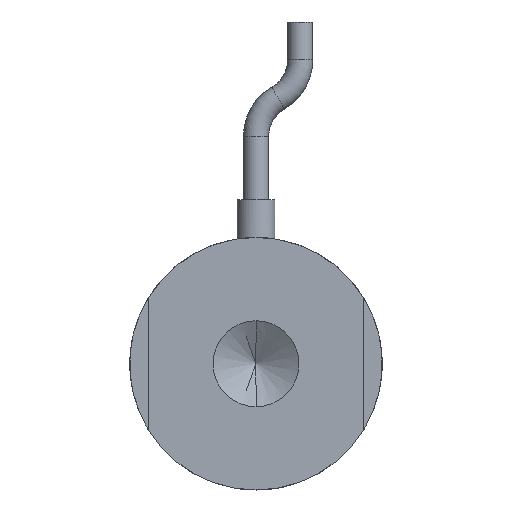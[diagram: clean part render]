
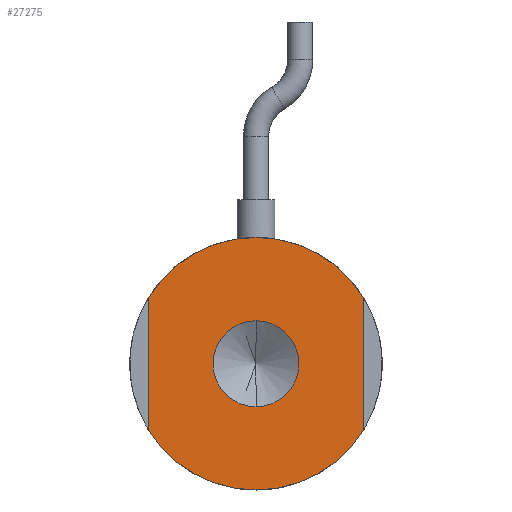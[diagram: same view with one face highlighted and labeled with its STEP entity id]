
A CAD part, front view. The second image highlights one B-rep face of the part: STEP entity #27275.
In plain terms, the highlighted planar face has unit normal (0, -1, 0).
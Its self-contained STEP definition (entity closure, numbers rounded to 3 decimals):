
#175 = ORIENTED_EDGE ( 'NONE', *, *, #4911, .F. ) ;
#606 = VERTEX_POINT ( 'NONE', #18744 ) ;
#827 = VERTEX_POINT ( 'NONE', #5374 ) ;
#1340 = CARTESIAN_POINT ( 'NONE',  ( 0., 0., 0. ) ) ;
#1816 = DIRECTION ( 'NONE',  ( 0., 0., 1. ) ) ;
#1964 = DIRECTION ( 'NONE',  ( 0., 0., -1. ) ) ;
#2889 = DIRECTION ( 'NONE',  ( 0., 0., -1. ) ) ;
#3129 = VERTEX_POINT ( 'NONE', #12806 ) ;
#3166 = VERTEX_POINT ( 'NONE', #6593 ) ;
#3718 = AXIS2_PLACEMENT_3D ( 'NONE', #44540, #41492, #20652 ) ;
#4396 = AXIS2_PLACEMENT_3D ( 'NONE', #44533, #23725, #2889 ) ;
#4875 = DIRECTION ( 'NONE',  ( 0., 0., -1. ) ) ;
#4911 = EDGE_CURVE ( 'NONE', #3129, #29303, #23677, .T. ) ;
#5374 = CARTESIAN_POINT ( 'NONE',  ( 8.5, 0., 5.268 ) ) ;
#6593 = CARTESIAN_POINT ( 'NONE',  ( 8.5, 0., -5.268 ) ) ;
#6669 = AXIS2_PLACEMENT_3D ( 'NONE', #27531, #6719, #31050 ) ;
#6719 = DIRECTION ( 'NONE',  ( 0., 1., 0. ) ) ;
#7034 = CARTESIAN_POINT ( 'NONE',  ( 0., 0., 10. ) ) ;
#7803 = DIRECTION ( 'NONE',  ( 0., 1., 0. ) ) ;
#8631 = EDGE_LOOP ( 'NONE', ( #28959, #29919 ) ) ;
#8984 = VERTEX_POINT ( 'NONE', #37678 ) ;
#9747 = CARTESIAN_POINT ( 'NONE',  ( 0., 0., 0. ) ) ;
#9778 = VECTOR ( 'NONE', #1964, 1000. ) ;
#10733 = EDGE_CURVE ( 'NONE', #31357, #827, #14322, .T. ) ;
#10824 = EDGE_CURVE ( 'NONE', #8984, #3129, #31795, .T. ) ;
#12146 = ORIENTED_EDGE ( 'NONE', *, *, #10733, .F. ) ;
#12806 = CARTESIAN_POINT ( 'NONE',  ( -8.5, 0., -5.268 ) ) ;
#13191 = DIRECTION ( 'NONE',  ( 0., 0., 1. ) ) ;
#14322 = CIRCLE ( 'NONE', #18330, 10. ) ;
#16300 = DIRECTION ( 'NONE',  ( 0., 0., 1. ) ) ;
#17043 = ORIENTED_EDGE ( 'NONE', *, *, #24200, .F. ) ;
#17172 = PLANE ( 'NONE',  #3718 ) ;
#17607 = ORIENTED_EDGE ( 'NONE', *, *, #10824, .F. ) ;
#18330 = AXIS2_PLACEMENT_3D ( 'NONE', #28636, #7803, #32179 ) ;
#18744 = CARTESIAN_POINT ( 'NONE',  ( 0., 0., 3.4 ) ) ;
#18962 = LINE ( 'NONE', #19309, #9778 ) ;
#19309 = CARTESIAN_POINT ( 'NONE',  ( 8.5, 0., 0. ) ) ;
#20652 = DIRECTION ( 'NONE',  ( 0., 0., 1. ) ) ;
#20986 = CIRCLE ( 'NONE', #39185, 3.4 ) ;
#22680 = DIRECTION ( 'NONE',  ( 0., 1., 0. ) ) ;
#23606 = ORIENTED_EDGE ( 'NONE', *, *, #36117, .F. ) ;
#23677 = LINE ( 'NONE', #37166, #42168 ) ;
#23725 = DIRECTION ( 'NONE',  ( 0., -1., 0. ) ) ;
#24200 = EDGE_CURVE ( 'NONE', #29303, #31357, #30783, .T. ) ;
#25688 = DIRECTION ( 'NONE',  ( 0., -1., 0. ) ) ;
#27275 = ADVANCED_FACE ( 'NONE', ( #31316, #34609 ), #17172, .F. ) ;
#27531 = CARTESIAN_POINT ( 'NONE',  ( 0., 0., 0. ) ) ;
#28493 = EDGE_CURVE ( 'NONE', #3166, #8984, #41577, .T. ) ;
#28636 = CARTESIAN_POINT ( 'NONE',  ( 0., 0., 0. ) ) ;
#28959 = ORIENTED_EDGE ( 'NONE', *, *, #42218, .F. ) ;
#29303 = VERTEX_POINT ( 'NONE', #40060 ) ;
#29869 = CIRCLE ( 'NONE', #4396, 3.4 ) ;
#29919 = ORIENTED_EDGE ( 'NONE', *, *, #36815, .F. ) ;
#30016 = AXIS2_PLACEMENT_3D ( 'NONE', #43488, #22680, #1816 ) ;
#30783 = CIRCLE ( 'NONE', #43883, 10. ) ;
#31050 = DIRECTION ( 'NONE',  ( 0., 0., 1. ) ) ;
#31316 = FACE_BOUND ( 'NONE', #8631, .T. ) ;
#31357 = VERTEX_POINT ( 'NONE', #7034 ) ;
#31795 = CIRCLE ( 'NONE', #30016, 10. ) ;
#32179 = DIRECTION ( 'NONE',  ( 0., 0., 1. ) ) ;
#33135 = CARTESIAN_POINT ( 'NONE',  ( 0., 0., -3.4 ) ) ;
#34107 = DIRECTION ( 'NONE',  ( 0., 1., 0. ) ) ;
#34609 = FACE_OUTER_BOUND ( 'NONE', #40119, .T. ) ;
#36117 = EDGE_CURVE ( 'NONE', #827, #3166, #18962, .T. ) ;
#36815 = EDGE_CURVE ( 'NONE', #606, #40468, #29869, .T. ) ;
#37166 = CARTESIAN_POINT ( 'NONE',  ( -8.5, 0., 0. ) ) ;
#37678 = CARTESIAN_POINT ( 'NONE',  ( 0., 0., -10. ) ) ;
#39185 = AXIS2_PLACEMENT_3D ( 'NONE', #1340, #25688, #4875 ) ;
#40060 = CARTESIAN_POINT ( 'NONE',  ( -8.5, 0., 5.268 ) ) ;
#40119 = EDGE_LOOP ( 'NONE', ( #175, #17607, #42092, #23606, #12146, #17043 ) ) ;
#40468 = VERTEX_POINT ( 'NONE', #33135 ) ;
#41492 = DIRECTION ( 'NONE',  ( 0., 1., 0. ) ) ;
#41577 = CIRCLE ( 'NONE', #6669, 10. ) ;
#42092 = ORIENTED_EDGE ( 'NONE', *, *, #28493, .F. ) ;
#42168 = VECTOR ( 'NONE', #16300, 1000. ) ;
#42218 = EDGE_CURVE ( 'NONE', #40468, #606, #20986, .T. ) ;
#43488 = CARTESIAN_POINT ( 'NONE',  ( 0., 0., 0. ) ) ;
#43883 = AXIS2_PLACEMENT_3D ( 'NONE', #9747, #34107, #13191 ) ;
#44533 = CARTESIAN_POINT ( 'NONE',  ( 0., 0., 0. ) ) ;
#44540 = CARTESIAN_POINT ( 'NONE',  ( 0., 0., 0. ) ) ;
